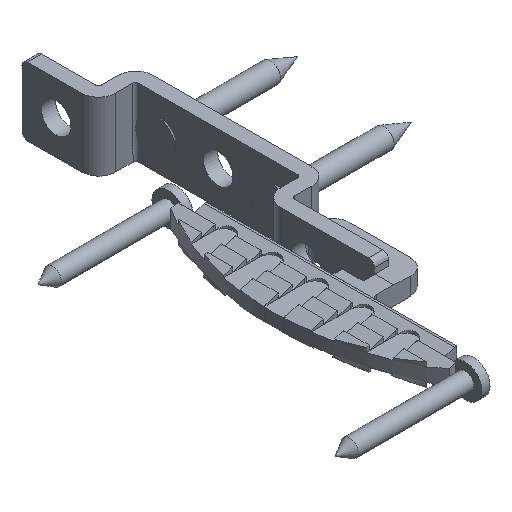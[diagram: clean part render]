
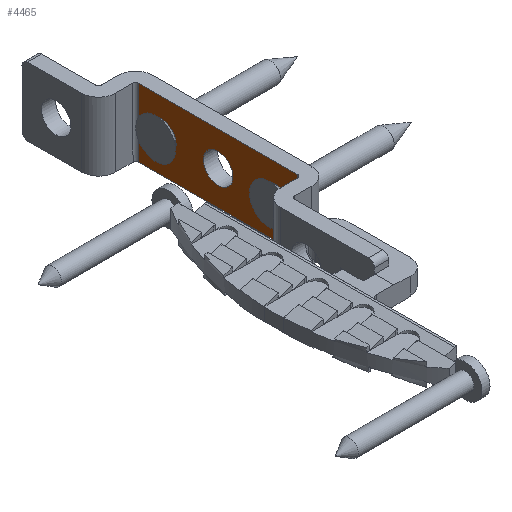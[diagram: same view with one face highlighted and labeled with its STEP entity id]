
A CAD part, isometric view. The second image highlights one B-rep face of the part: STEP entity #4465.
In plain terms, the highlighted planar face has unit normal (-1, 0, 0) as drawn and (0, 0, 1) by its records, which use the part's own axes.
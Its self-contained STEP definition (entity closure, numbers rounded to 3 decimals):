
#187=CIRCLE('',#4856,2.6);
#188=CIRCLE('',#4857,2.6);
#189=CIRCLE('',#4858,2.6);
#1488=ORIENTED_EDGE('',*,*,#2183,.T.);
#1489=ORIENTED_EDGE('',*,*,#2184,.T.);
#1490=ORIENTED_EDGE('',*,*,#2185,.T.);
#1491=ORIENTED_EDGE('',*,*,#2155,.T.);
#1492=ORIENTED_EDGE('',*,*,#2186,.F.);
#1493=ORIENTED_EDGE('',*,*,#2129,.F.);
#1494=ORIENTED_EDGE('',*,*,#2182,.T.);
#2129=EDGE_CURVE('',#2586,#2587,#3043,.F.);
#2155=EDGE_CURVE('',#2609,#2608,#3057,.F.);
#2182=EDGE_CURVE('',#2586,#2609,#3073,.T.);
#2183=EDGE_CURVE('',#2621,#2621,#187,.T.);
#2184=EDGE_CURVE('',#2622,#2622,#188,.T.);
#2185=EDGE_CURVE('',#2623,#2623,#189,.T.);
#2186=EDGE_CURVE('',#2587,#2608,#3074,.F.);
#2586=VERTEX_POINT('',#7550);
#2587=VERTEX_POINT('',#7552);
#2608=VERTEX_POINT('',#7599);
#2609=VERTEX_POINT('',#7601);
#2621=VERTEX_POINT('',#7655);
#2622=VERTEX_POINT('',#7657);
#2623=VERTEX_POINT('',#7659);
#3043=LINE('',#7551,#3496);
#3057=LINE('',#7600,#3510);
#3073=LINE('',#7652,#3526);
#3074=LINE('',#7660,#3527);
#3496=VECTOR('',#5884,1000.);
#3510=VECTOR('',#5924,1000.);
#3526=VECTOR('',#5988,1000.);
#3527=VECTOR('',#5997,1000.);
#3768=EDGE_LOOP('',(#1488));
#3769=EDGE_LOOP('',(#1489));
#3770=EDGE_LOOP('',(#1490));
#3771=EDGE_LOOP('',(#1491,#1492,#1493,#1494));
#4034=FACE_BOUND('',#3768,.T.);
#4035=FACE_BOUND('',#3769,.T.);
#4036=FACE_BOUND('',#3770,.T.);
#4037=FACE_BOUND('',#3771,.T.);
#4244=PLANE('',#4855);
#4465=ADVANCED_FACE('',(#4034,#4035,#4036,#4037),#4244,.F.);
#4855=AXIS2_PLACEMENT_3D('',#7653,#5989,#5990);
#4856=AXIS2_PLACEMENT_3D('',#7654,#5991,#5992);
#4857=AXIS2_PLACEMENT_3D('',#7656,#5993,#5994);
#4858=AXIS2_PLACEMENT_3D('',#7658,#5995,#5996);
#5884=DIRECTION('',(-1.,0.,0.));
#5924=DIRECTION('',(-1.,0.,0.));
#5988=DIRECTION('',(0.,-1.,0.));
#5989=DIRECTION('',(0.,0.,-1.));
#5990=DIRECTION('',(-1.,0.,0.));
#5991=DIRECTION('',(0.,0.,-1.));
#5992=DIRECTION('',(0.,-1.,0.));
#5993=DIRECTION('',(0.,0.,-1.));
#5994=DIRECTION('',(0.,-1.,0.));
#5995=DIRECTION('',(0.,0.,-1.));
#5996=DIRECTION('',(0.,-1.,0.));
#5997=DIRECTION('',(0.,1.,0.));
#7550=CARTESIAN_POINT('',(-5.582,0.,-5.492));
#7551=CARTESIAN_POINT('',(-8.582,0.,-5.492));
#7552=CARTESIAN_POINT('',(22.418,0.,-5.492));
#7599=CARTESIAN_POINT('',(22.418,-12.,-5.492));
#7600=CARTESIAN_POINT('',(-8.582,-12.,-5.492));
#7601=CARTESIAN_POINT('',(-5.582,-12.,-5.492));
#7652=CARTESIAN_POINT('',(-5.582,0.,-5.492));
#7653=CARTESIAN_POINT('',(-8.582,0.,-5.492));
#7654=CARTESIAN_POINT('',(8.418,-6.,-5.492));
#7655=CARTESIAN_POINT('',(8.418,-8.6,-5.492));
#7656=CARTESIAN_POINT('',(18.418,-6.,-5.492));
#7657=CARTESIAN_POINT('',(18.418,-8.6,-5.492));
#7658=CARTESIAN_POINT('',(-1.582,-6.,-5.492));
#7659=CARTESIAN_POINT('',(-1.582,-8.6,-5.492));
#7660=CARTESIAN_POINT('',(22.418,0.,-5.492));
